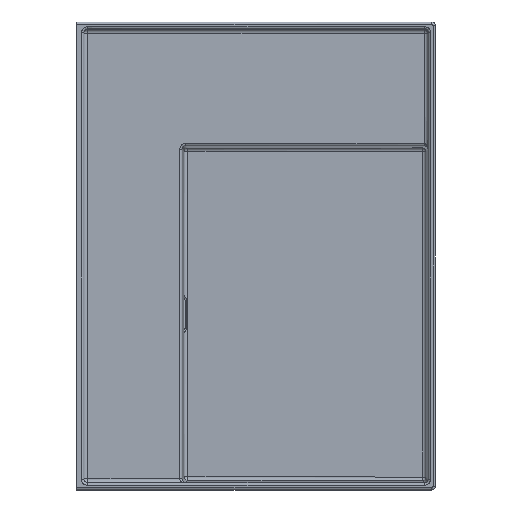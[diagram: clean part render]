
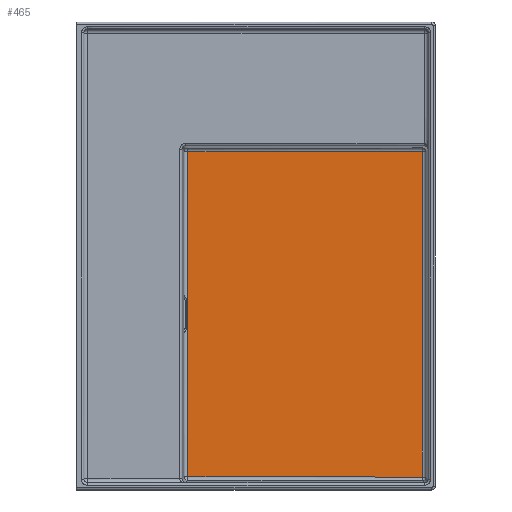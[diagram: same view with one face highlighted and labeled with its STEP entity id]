
A CAD part, top view. The second image highlights one B-rep face of the part: STEP entity #465.
In plain terms, the highlighted free-form (B-spline) face has degree [5, 1] with [6, 2] control points.
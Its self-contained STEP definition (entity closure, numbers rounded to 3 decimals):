
#178=CARTESIAN_POINT('Vertex',(-147.24,208.373,0.558)) ;
#291=CARTESIAN_POINT('Vertex',(-147.24,-208.373,0.558)) ;
#294=CARTESIAN_POINT('Line Origine',(-147.24,0.,0.558)) ;
#354=CARTESIAN_POINT('Line Origine',(2.895,208.538,5.276)) ;
#358=CARTESIAN_POINT('Vertex',(153.36,208.703,10.005)) ;
#433=CARTESIAN_POINT('Control Point',(-184.99,277.782,-0.628)) ;
#434=CARTESIAN_POINT('Control Point',(234.803,277.782,12.564)) ;
#435=CARTESIAN_POINT('Control Point',(-184.99,166.669,-0.628)) ;
#436=CARTESIAN_POINT('Control Point',(234.803,166.669,12.564)) ;
#437=CARTESIAN_POINT('Control Point',(-184.99,55.556,-0.628)) ;
#438=CARTESIAN_POINT('Control Point',(234.803,55.556,12.564)) ;
#439=CARTESIAN_POINT('Control Point',(-184.99,-55.556,-0.628)) ;
#440=CARTESIAN_POINT('Control Point',(234.803,-55.556,12.564)) ;
#441=CARTESIAN_POINT('Control Point',(-184.99,-166.669,-0.628)) ;
#442=CARTESIAN_POINT('Control Point',(234.803,-166.669,12.564)) ;
#443=CARTESIAN_POINT('Control Point',(-184.99,-277.782,-0.628)) ;
#444=CARTESIAN_POINT('Control Point',(234.803,-277.782,12.564)) ;
#446=CARTESIAN_POINT('Control Point',(-147.24,-208.373,0.558)) ;
#447=CARTESIAN_POINT('Control Point',(153.36,-208.703,10.005)) ;
#448=CARTESIAN_POINT('Vertex',(153.36,-208.703,10.005)) ;
#452=CARTESIAN_POINT('Control Point',(153.36,208.703,10.005)) ;
#453=CARTESIAN_POINT('Control Point',(153.36,125.222,10.005)) ;
#454=CARTESIAN_POINT('Control Point',(153.36,41.741,10.005)) ;
#455=CARTESIAN_POINT('Control Point',(153.36,-41.741,10.005)) ;
#456=CARTESIAN_POINT('Control Point',(153.36,-125.222,10.005)) ;
#457=CARTESIAN_POINT('Control Point',(153.36,-208.703,10.005)) ;
#295=DIRECTION('Vector Direction',(0.,-1.,0.)) ;
#355=DIRECTION('Vector Direction',(-1.,-0.001,-0.031)) ;
#460=ORIENTED_EDGE('',*,*,#450,.F.) ;
#461=ORIENTED_EDGE('',*,*,#458,.F.) ;
#462=ORIENTED_EDGE('',*,*,#360,.F.) ;
#463=ORIENTED_EDGE('',*,*,#298,.F.) ;
#296=VECTOR('Line Direction',#295,1.) ;
#356=VECTOR('Line Direction',#355,1.) ;
#465=ADVANCED_FACE('Hauptk\X2\00F6\X0\rper',(#464),#432,.T.) ;
#445=B_SPLINE_CURVE_WITH_KNOTS('',1,(#446,#447),.UNSPECIFIED.,.F.,.U.,(2,2),(-89.94,210.809),.UNSPECIFIED.) ;
#451=B_SPLINE_CURVE_WITH_KNOTS('',5,(#452,#453,#454,#455,#456,#457),.UNSPECIFIED.,.F.,.U.,(6,6),(69.079,486.485),.UNSPECIFIED.) ;
#432=B_SPLINE_SURFACE_WITH_KNOTS('',5,1,((#433,#434),(#435,#436),(#437,#438),(#439,#440),(#441,#442),(#443,#444)),.UNSPECIFIED.,.F.,.F.,.U.,(6,6),(2,2),(0.,555.564),(0.,420.),.UNSPECIFIED.) ;
#298=EDGE_CURVE('',#292,#179,#297,.F.) ;
#360=EDGE_CURVE('',#179,#359,#357,.F.) ;
#450=EDGE_CURVE('',#449,#292,#445,.F.) ;
#458=EDGE_CURVE('',#359,#449,#451,.T.) ;
#459=EDGE_LOOP('',(#460,#461,#462,#463)) ;
#464=FACE_OUTER_BOUND('',#459,.T.) ;
#297=LINE('Line',#294,#296) ;
#357=LINE('Line',#354,#356) ;
#179=VERTEX_POINT('',#178) ;
#292=VERTEX_POINT('',#291) ;
#359=VERTEX_POINT('',#358) ;
#449=VERTEX_POINT('',#448) ;
